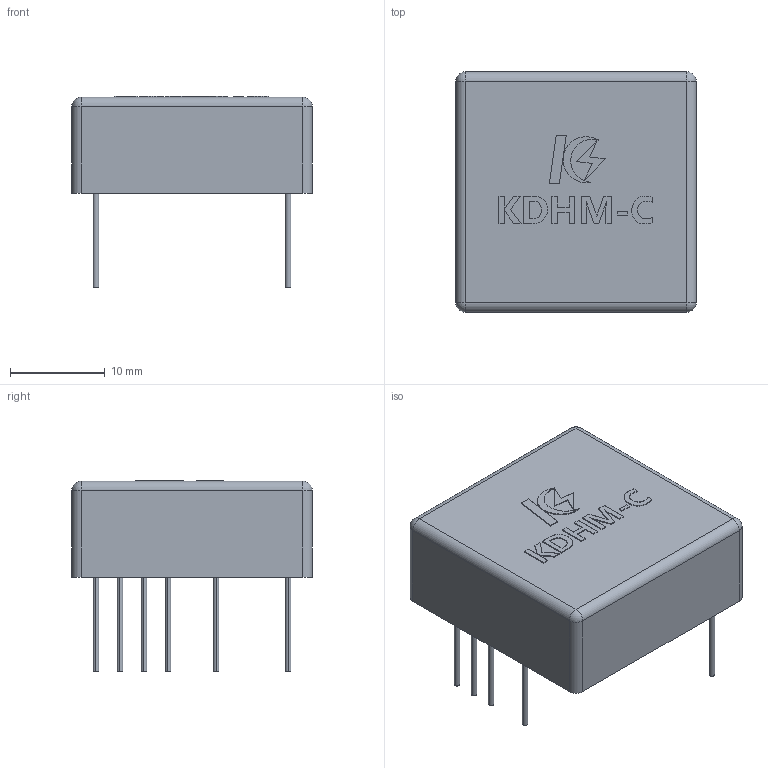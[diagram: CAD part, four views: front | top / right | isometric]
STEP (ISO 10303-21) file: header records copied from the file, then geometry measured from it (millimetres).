
FILE_DESCRIPTION (( 'STEP AP214' ), '1' );
FILE_NAME ('KDHM-C.STEP', '2026-08-12T01:18:12', ( '' ), ( '' ), 'SwSTEP 2.0', 'SolidWorks 2024', '' );
FILE_SCHEMA (( 'AUTOMOTIVE_DESIGN' ));
Length unit declared in the file: millimetre
Products named in the file (1): KDHM-C
Bounding box: 25.4 x 25.4 x 20.26 mm (x, y, z)
Volume: 6545.4 mm3; surface area: 2385.9 mm2
Topology: 1 solids, 1 shells, 133 faces, 337 edges, 218 vertices
Faces by surface type: plane 85, cylinder 24, bspline 20, sphere 4
Entity records: 6245 total; most frequent: CARTESIAN_POINT 1665, ORIENTED_EDGE 666, DIRECTION 569, EDGE_CURVE 333, LINE 245, VECTOR 245, VERTEX_POINT 218, AXIS2_PLACEMENT_3D 162
